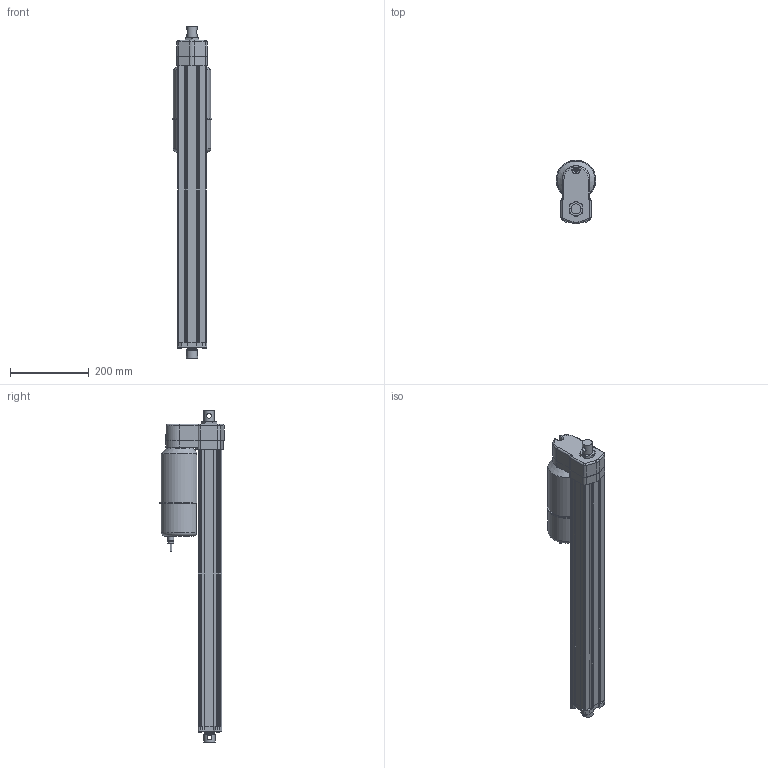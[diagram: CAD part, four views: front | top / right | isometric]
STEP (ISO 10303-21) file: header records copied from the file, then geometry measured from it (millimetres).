
FILE_DESCRIPTION (( 'STEP AP214' ), '1' );
FILE_NAME ('AA22-05A65M-60M0N-tollo.step', '2020-04-13T18:51:42', ( '' ), ( '' ), 'SwSTEP 2.0', 'SolidWorks 2010', '' );
FILE_SCHEMA (( 'AUTOMOTIVE_DESIGN' ));
Length unit declared in the file: millimetre
Products named in the file (8): Electrak-LA24-Motor-AA22-05A65M-60M0N-tollo_Electrak-LA24-Motor-AA22-05A65M-60M0N-tollo; Electrak-LA24-Rear-AA22-05A65M-60M0N-tollo_Electrak-LA24-Rear-AA22-05A65M-60M0N-tollo; Electrak-LA24-Tube-AA22-05A65M-60M0N-tollo_Electrak-LA24-Tube-AA22-05A65M-60M0N-tollo; Electrak-LA24-Rod-AA22-05A65M-60M0N-tollo_Electrak-LA24-Rod-AA22-05A65M-60M0N-tollo; Electrak-LA24-Plate-AA22-05A65M-60M0N-tollo_Electrak-LA24-Plate-AA22-05A65M-60M0N-tollo; Screw-MFX-H-M5_Screw-MFX-H-M5x24H; Screw-M6S-M5-AA22-05A65M-60M0N-tollo_Screw-M6S-M5-AA22-05A65M-60M0N-tollo; AA22-05A65M-60M0N-tollo
Assembly tree (10 placements, depth 2):
  AA22-05A65M-60M0N-tollo
    Electrak-LA24-Plate-AA22-05A65M-60M0N-tollo_Electrak-LA24-Plate-AA22-05A65M-60M0N-tollo
    Electrak-LA24-Rod-AA22-05A65M-60M0N-tollo_Electrak-LA24-Rod-AA22-05A65M-60M0N-tollo
    Electrak-LA24-Motor-AA22-05A65M-60M0N-tollo_Electrak-LA24-Motor-AA22-05A65M-60M0N-tollo
    Electrak-LA24-Rear-AA22-05A65M-60M0N-tollo_Electrak-LA24-Rear-AA22-05A65M-60M0N-tollo
    Electrak-LA24-Tube-AA22-05A65M-60M0N-tollo_Electrak-LA24-Tube-AA22-05A65M-60M0N-tollo
    Screw-M6S-M5-AA22-05A65M-60M0N-tollo_Screw-M6S-M5-AA22-05A65M-60M0N-tollo  x4
    Screw-MFX-H-M5_Screw-MFX-H-M5x24H
Bounding box: 100.99 x 162.5 x 842.8 mm (x, y, z)
Volume: 3305266.2 mm3; surface area: 606919.2 mm2
Topology: 10 solids, 10 shells, 353 faces, 886 edges, 572 vertices
Faces by surface type: plane 174, cylinder 128, cone 31, torus 15, bspline 3, sphere 2
Full cylindrical faces by diameter (mm): 4 x1, 4.126 x5, 4.8 x6, 5 x5, 5.6 x4, 7.878 x4, 9.3 x1, 10 x1, 12.2 x2, 15 x2, 25.4 x1, 28.6 x4, 47.625 x1, 68 x1
Entity records: 9633 total; most frequent: CARTESIAN_POINT 2397, DIRECTION 1446, ORIENTED_EDGE 1338, EDGE_CURVE 669, AXIS2_PLACEMENT_3D 527, VERTEX_POINT 460, VECTOR 392, LINE 392
